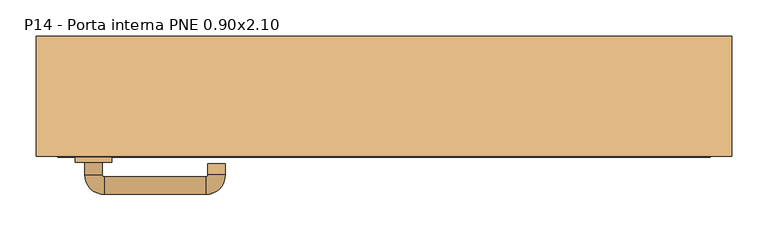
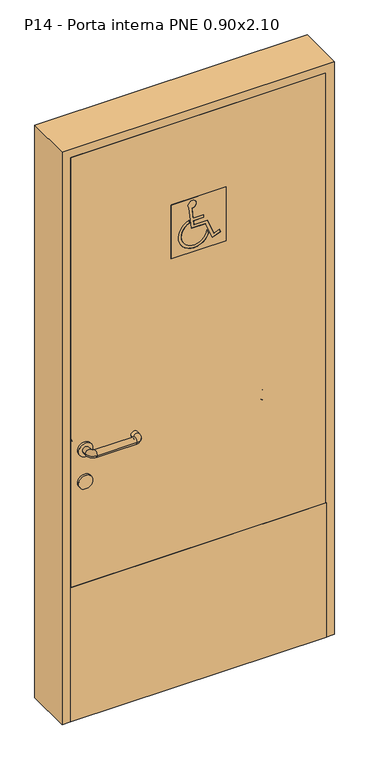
"""IFC4 building model written with IfcOpenShell, lengths in millimetres: door geometry, porta pne medida interna : P14 - Porta interna PNE 0.90x2.10."""

from ifc_helpers import new_model, si_unit, point, frame, frame_2d, origin, origin_with_axes, place, context, project, spatial, polyline, circle_curve, ellipse_curve, trimmed, segment, composite_curve, outline, extrude, source, transform, mapped, element, save
from ifc_brep_helpers import plane_surface, cylinder_surface, revolved_surface, advanced_brep


def p14_porta_interna_pne_0_90x2_10_b06f21c3(model_context):
    return source(origin(), model_context, "Body", "SolidModel", [
        advanced_brep(
        [(-389.0, -45.0, 1000.0), (-413.0, -45.0, 1000.0), (-389.0, -28.0, 1000.0), (-413.0, -28.0, 1000.0), (-386.0, -1.0, 1000.0), (-386.0, -25.0, 1000.0), (-246.0, -25.0, 1000.0), (-246.0, -1.0, 1000.0), (-219.0, -28.0, 1000.0), (-243.0, -28.0, 1000.0), (-243.0, -43.0, 1000.0), (-219.0, -43.0, 1000.0)],
        [
            (0, 1, circle_curve(frame((-401.0, -45.0, 1000.0), z_axis=(0.0, -1.0, 0.0), x_axis=(-1.0, 0.0, 0.0)), 12.0)),
            (1, 0, circle_curve(frame((-401.0, -45.0, 1000.0), z_axis=(0.0, -1.0, 0.0), x_axis=(-1.0, 0.0, 0.0)), 12.0)),
            (0, 2),
            (2, 3, circle_curve(frame((-401.0, -28.0, 1000.0), z_axis=(0.0, -1.0, 0.0), x_axis=(-1.0, 0.0, 0.0)), 12.0)),
            (3, 1),
            (3, 2, circle_curve(frame((-401.0, -28.0, 1000.0), z_axis=(0.0, -1.0, 0.0), x_axis=(-1.0, 0.0, 0.0)), 12.0)),
            (4, 3, circle_curve(frame((-386.0, -28.0, 1000.0), z_axis=(0.0, 0.0, 1.0), x_axis=(-1.0, 0.0, 0.0)), 27.0)),
            (2, 5, circle_curve(frame((-386.0, -28.0, 1000.0), z_axis=(0.0, 0.0, -1.0), x_axis=(-1.0, 0.0, 0.0)), 3.0)),
            (5, 4, circle_curve(frame((-386.0, -13.0, 1000.0), z_axis=(-1.0, 0.0, 0.0), x_axis=(0.0, 1.0, 0.0)), 12.0)),
            (4, 5, circle_curve(frame((-386.0, -13.0, 1000.0), z_axis=(-1.0, 0.0, 0.0), x_axis=(0.0, 1.0, 0.0)), 12.0)),
            (5, 6),
            (6, 7, circle_curve(frame((-246.0, -13.0, 1000.0), z_axis=(-1.0, 0.0, 0.0), x_axis=(0.0, 1.0, 0.0)), 12.0)),
            (7, 4),
            (7, 6, circle_curve(frame((-246.0, -13.0, 1000.0), z_axis=(-1.0, 0.0, 0.0), x_axis=(0.0, 1.0, 0.0)), 12.0)),
            (8, 7, circle_curve(frame((-246.0, -28.0, 1000.0), z_axis=(0.0, 0.0, 1.0), x_axis=(0.0, 1.0, 0.0)), 27.0)),
            (6, 9, circle_curve(frame((-246.0, -28.0, 1000.0), z_axis=(0.0, 0.0, -1.0), x_axis=(0.0, 1.0, 0.0)), 3.0)),
            (9, 8, circle_curve(frame((-231.0, -28.0, 1000.0), z_axis=(0.0, 1.0, 0.0), x_axis=(1.0, 0.0, 0.0)), 12.0)),
            (8, 9, circle_curve(frame((-231.0, -28.0, 1000.0), z_axis=(0.0, 1.0, 0.0), x_axis=(1.0, 0.0, 0.0)), 12.0)),
            (10, 11, circle_curve(frame((-231.0, -43.0, 1000.0), z_axis=(0.0, -1.0, 0.0), x_axis=(1.0, 0.0, 0.0)), 12.0)),
            (11, 10, circle_curve(frame((-231.0, -43.0, 1000.0), z_axis=(0.0, -1.0, 0.0), x_axis=(1.0, 0.0, 0.0)), 12.0)),
            (9, 10),
            (11, 8),
        ],
        [
            plane_surface(frame((-1243.0, -45.0, 1830.0), z_axis=(0.0, -1.0, 0.0), x_axis=(0.0, 0.0, 1.0))),
            cylinder_surface(frame((-401.0, -45.0, 1000.0), z_axis=(0.0, -1.0, 0.0), x_axis=(-1.0, 0.0, 0.0)), 12.0),
            revolved_surface(trimmed(ellipse_curve(frame((-401.0, -28.0, 1000.0), z_axis=(0.0, -1.0, 0.0), x_axis=(-1.0, 0.0, 0.0)), 12.0, 12.0), [point((-389.0, -28.0, 1000.0))], [point((-413.0, -28.0, 1000.0))], True, "CARTESIAN"), (-386.0, -28.0, 1830.0), (0.0, 0.0, -1.0)),
            revolved_surface(trimmed(ellipse_curve(frame((-401.0, -28.0, 1000.0), z_axis=(0.0, -1.0, 0.0), x_axis=(-1.0, 0.0, 0.0)), 12.0, 12.0), [point((-413.0, -28.0, 1000.0))], [point((-389.0, -28.0, 1000.0))], True, "CARTESIAN"), (-386.0, -28.0, 1830.0), (0.0, 0.0, -1.0)),
            cylinder_surface(frame((-386.0, -13.0, 1000.0), z_axis=(-1.0, 0.0, 0.0), x_axis=(0.0, 1.0, 0.0)), 12.0),
            revolved_surface(trimmed(ellipse_curve(frame((-246.0, -13.0, 1000.0), z_axis=(-1.0, 0.0, 0.0), x_axis=(0.0, 1.0, 0.0)), 12.0, 12.0), [point((-246.0, -25.0, 1000.0))], [point((-246.0, -1.0, 1000.0))], True, "CARTESIAN"), (-246.0, -28.0, 1830.0), (0.0, 0.0, -1.0)),
            revolved_surface(trimmed(ellipse_curve(frame((-246.0, -13.0, 1000.0), z_axis=(-1.0, 0.0, 0.0), x_axis=(0.0, 1.0, 0.0)), 12.0, 12.0), [point((-246.0, -1.0, 1000.0))], [point((-246.0, -25.0, 1000.0))], True, "CARTESIAN"), (-246.0, -28.0, 1830.0), (0.0, 0.0, -1.0)),
            plane_surface(frame((-1073.0, -43.0, 1830.0), z_axis=(0.0, -1.0, 0.0), x_axis=(0.0, 0.0, -1.0))),
            cylinder_surface(frame((-231.0, -28.0, 1000.0), z_axis=(0.0, 1.0, 0.0), x_axis=(1.0, 0.0, 0.0)), 12.0),
        ],
        [
            (0, [[1, 2]]),
            (1, [[-1, 3, 4, 5]]),
            (1, [[-2, -5, 6, -3]]),
            (2, [[7, -4, 8, 9]]),
            (3, [[-8, -6, -7, 10]]),
            (4, [[-9, 11, 12, 13]]),
            (4, [[-10, -13, 14, -11]]),
            (5, [[15, -12, 16, 17]]),
            (6, [[-16, -14, -15, 18]]),
            (7, [[19, 20]]),
            (8, [[-17, 21, -20, 22]]),
            (8, [[-18, -22, -19, -21]]),
        ],
    ),
        extrude(outline(composite_curve([segment(trimmed(circle_curve(frame_2d((880.0, -401.0)), 25.0), [point((880.0, -426.0))], [point((880.0, -376.0))], False, "CARTESIAN"), True, "CONTINUOUS"), segment(trimmed(circle_curve(frame_2d((880.0, -401.0)), 25.0), [point((880.0, -376.0))], [point((880.0, -426.0))], False, "CARTESIAN"), True, "CONTINUOUS")], self_intersect=False)), frame((0.0, -53.0, 0.0), z_axis=(0.0, 1.0, 0.0), x_axis=(0.0, 0.0, 1.0)), (0.0, 0.0, 1.0), 8.0),
        extrude(outline(composite_curve([segment(trimmed(circle_curve(frame_2d((1000.0, -401.0)), 25.0), [point((1000.0, -426.0))], [point((1000.0, -376.0))], False, "CARTESIAN"), True, "CONTINUOUS"), segment(trimmed(circle_curve(frame_2d((1000.0, -401.0)), 25.0), [point((1000.0, -376.0))], [point((1000.0, -426.0))], False, "CARTESIAN"), True, "CONTINUOUS")], self_intersect=False)), frame((0.0, -53.0, 0.0), z_axis=(0.0, 1.0, 0.0), x_axis=(0.0, 0.0, 1.0)), (0.0, 0.0, 1.0), 8.0),
        advanced_brep(
        [(-413.0, -91.0, 1000.0), (-389.0, -91.0, 1000.0), (-413.0, -108.0, 1000.0), (-389.0, -108.0, 1000.0), (-386.0, -111.0, 1000.0), (-386.0, -135.0, 1000.0), (-246.0, -135.0, 1000.0), (-246.0, -111.0, 1000.0), (-243.0, -108.0, 1000.0), (-219.0, -108.0, 1000.0), (-219.0, -93.0, 1000.0), (-243.0, -93.0, 1000.0)],
        [
            (0, 1, circle_curve(frame((-401.0, -91.0, 1000.0), z_axis=(0.0, 1.0, 0.0), x_axis=(1.0, 0.0, 0.0)), 12.0)),
            (1, 0, circle_curve(frame((-401.0, -91.0, 1000.0), z_axis=(0.0, 1.0, 0.0), x_axis=(1.0, 0.0, 0.0)), 12.0)),
            (0, 2),
            (2, 3, circle_curve(frame((-401.0, -108.0, 1000.0), z_axis=(0.0, 1.0, 0.0), x_axis=(1.0, 0.0, 0.0)), 12.0)),
            (3, 1),
            (3, 2, circle_curve(frame((-401.0, -108.0, 1000.0), z_axis=(0.0, 1.0, 0.0), x_axis=(1.0, 0.0, 0.0)), 12.0)),
            (4, 3, circle_curve(frame((-386.0, -108.0, 1000.0), z_axis=(0.0, 0.0, -1.0), x_axis=(-1.0, 0.0, 0.0)), 3.0)),
            (2, 5, circle_curve(frame((-386.0, -108.0, 1000.0), z_axis=(0.0, 0.0, 1.0), x_axis=(-1.0, 0.0, 0.0)), 27.0)),
            (5, 4, circle_curve(frame((-386.0, -123.0, 1000.0), z_axis=(-1.0, 0.0, 0.0), x_axis=(0.0, 1.0, 0.0)), 12.0)),
            (4, 5, circle_curve(frame((-386.0, -123.0, 1000.0), z_axis=(-1.0, 0.0, 0.0), x_axis=(0.0, 1.0, 0.0)), 12.0)),
            (5, 6),
            (6, 7, circle_curve(frame((-246.0, -123.0, 1000.0), z_axis=(-1.0, 0.0, 0.0), x_axis=(0.0, 1.0, 0.0)), 12.0)),
            (7, 4),
            (7, 6, circle_curve(frame((-246.0, -123.0, 1000.0), z_axis=(-1.0, 0.0, 0.0), x_axis=(0.0, 1.0, 0.0)), 12.0)),
            (8, 7, circle_curve(frame((-246.0, -108.0, 1000.0), z_axis=(0.0, 0.0, -1.0), x_axis=(0.0, -1.0, 0.0)), 3.0)),
            (6, 9, circle_curve(frame((-246.0, -108.0, 1000.0), z_axis=(0.0, 0.0, 1.0), x_axis=(0.0, -1.0, 0.0)), 27.0)),
            (9, 8, circle_curve(frame((-231.0, -108.0, 1000.0), z_axis=(0.0, -1.0, 0.0), x_axis=(-1.0, 0.0, 0.0)), 12.0)),
            (8, 9, circle_curve(frame((-231.0, -108.0, 1000.0), z_axis=(0.0, -1.0, 0.0), x_axis=(-1.0, 0.0, 0.0)), 12.0)),
            (10, 11, circle_curve(frame((-231.0, -93.0, 1000.0), z_axis=(0.0, 1.0, 0.0), x_axis=(-1.0, 0.0, 0.0)), 12.0)),
            (11, 10, circle_curve(frame((-231.0, -93.0, 1000.0), z_axis=(0.0, 1.0, 0.0), x_axis=(-1.0, 0.0, 0.0)), 12.0)),
            (9, 10),
            (11, 8),
        ],
        [
            plane_surface(frame((-1243.0, -91.0, 1830.0), z_axis=(0.0, 1.0, 0.0), x_axis=(0.0, 0.0, -1.0))),
            cylinder_surface(frame((-401.0, -91.0, 1000.0), z_axis=(0.0, 1.0, 0.0), x_axis=(1.0, 0.0, 0.0)), 12.0),
            revolved_surface(trimmed(ellipse_curve(frame((-401.0, -108.0, 1000.0), z_axis=(0.0, 1.0, 0.0), x_axis=(1.0, 0.0, 0.0)), 12.0, 12.0), [point((-413.0, -108.0, 1000.0))], [point((-389.0, -108.0, 1000.0))], True, "CARTESIAN"), (-386.0, -108.0, 1830.0), (0.0, 0.0, 1.0)),
            revolved_surface(trimmed(ellipse_curve(frame((-401.0, -108.0, 1000.0), z_axis=(0.0, 1.0, 0.0), x_axis=(1.0, 0.0, 0.0)), 12.0, 12.0), [point((-389.0, -108.0, 1000.0))], [point((-413.0, -108.0, 1000.0))], True, "CARTESIAN"), (-386.0, -108.0, 1830.0), (0.0, 0.0, 1.0)),
            cylinder_surface(frame((-386.0, -123.0, 1000.0), z_axis=(-1.0, 0.0, 0.0), x_axis=(0.0, 1.0, 0.0)), 12.0),
            revolved_surface(trimmed(ellipse_curve(frame((-246.0, -123.0, 1000.0), z_axis=(-1.0, 0.0, 0.0), x_axis=(0.0, 1.0, 0.0)), 12.0, 12.0), [point((-246.0, -135.0, 1000.0))], [point((-246.0, -111.0, 1000.0))], True, "CARTESIAN"), (-246.0, -108.0, 1830.0), (0.0, 0.0, 1.0)),
            revolved_surface(trimmed(ellipse_curve(frame((-246.0, -123.0, 1000.0), z_axis=(-1.0, 0.0, 0.0), x_axis=(0.0, 1.0, 0.0)), 12.0, 12.0), [point((-246.0, -111.0, 1000.0))], [point((-246.0, -135.0, 1000.0))], True, "CARTESIAN"), (-246.0, -108.0, 1830.0), (0.0, 0.0, 1.0)),
            plane_surface(frame((-1073.0, -93.0, 1830.0), z_axis=(0.0, 1.0, 0.0), x_axis=(0.0, 0.0, 1.0))),
            cylinder_surface(frame((-231.0, -108.0, 1000.0), z_axis=(0.0, -1.0, 0.0), x_axis=(-1.0, 0.0, 0.0)), 12.0),
        ],
        [
            (0, [[1, 2]]),
            (1, [[-1, 3, 4, 5]]),
            (1, [[-2, -5, 6, -3]]),
            (2, [[7, -4, 8, 9]]),
            (3, [[-8, -6, -7, 10]]),
            (4, [[-9, 11, 12, 13]]),
            (4, [[-10, -13, 14, -11]]),
            (5, [[15, -12, 16, 17]]),
            (6, [[-16, -14, -15, 18]]),
            (7, [[19, 20]]),
            (8, [[-17, 21, -20, 22]]),
            (8, [[-18, -22, -19, -21]]),
        ],
    ),
        extrude(outline(composite_curve([segment(trimmed(circle_curve(frame_2d((880.0, -401.0)), 25.0), [point((880.0, -426.0))], [point((880.0, -376.0))], False, "CARTESIAN"), True, "CONTINUOUS"), segment(trimmed(circle_curve(frame_2d((880.0, -401.0)), 25.0), [point((880.0, -376.0))], [point((880.0, -426.0))], False, "CARTESIAN"), True, "CONTINUOUS")], self_intersect=False)), frame((0.0, -91.0, 0.0), z_axis=(0.0, 1.0, 0.0), x_axis=(0.0, 0.0, 1.0)), (0.0, 0.0, 1.0), 8.0),
        extrude(outline(composite_curve([segment(trimmed(circle_curve(frame_2d((1000.0, -401.0)), 25.0), [point((1000.0, -426.0))], [point((1000.0, -376.0))], False, "CARTESIAN"), True, "CONTINUOUS"), segment(trimmed(circle_curve(frame_2d((1000.0, -401.0)), 25.0), [point((1000.0, -376.0))], [point((1000.0, -426.0))], False, "CARTESIAN"), True, "CONTINUOUS")], self_intersect=False)), frame((0.0, -91.0, 0.0), z_axis=(0.0, 1.0, 0.0), x_axis=(0.0, 0.0, 1.0)), (0.0, 0.0, 1.0), 8.0),
        extrude(outline(composite_curve([segment(trimmed(circle_curve(frame_2d((914.4, -121.4077617)), 25.4), [point((914.4, -96.0077617))], [point((914.4, -146.8077617))], False, "CARTESIAN"), True, "CONTINUOUS"), segment(trimmed(circle_curve(frame_2d((914.4, -121.4077617)), 25.4), [point((914.4, -146.8077617))], [point((914.4, -96.0077617))], False, "CARTESIAN"), True, "CONTINUOUS")], self_intersect=False)), frame((0.0, -53.0, 0.0), z_axis=(0.0, 1.0, 0.0), x_axis=(0.0, 0.0, 1.0)), (0.0, 0.0, 1.0), 19.05),
        extrude(outline(composite_curve([segment(trimmed(circle_curve(frame_2d((914.4, 278.5922383)), 25.4), [point((914.4, 303.9922383))], [point((914.4, 253.1922383))], False, "CARTESIAN"), True, "CONTINUOUS"), segment(trimmed(circle_curve(frame_2d((914.4, 278.5922383)), 25.4), [point((914.4, 253.1922383))], [point((914.4, 303.9922383))], False, "CARTESIAN"), True, "CONTINUOUS")], self_intersect=False)), frame((0.0, -53.0, 0.0), z_axis=(0.0, 1.0, 0.0), x_axis=(0.0, 0.0, 1.0)), (0.0, 0.0, 1.0), 19.05),
        advanced_brep(
        [(262.7172383, -33.95, 914.4), (294.4672383, -33.95, 914.4), (294.4672383, -14.9, 914.4), (262.7172383, -14.9, 914.4), (253.1922383, 26.375, 914.4), (253.1922383, -5.375, 914.4), (-96.0077617, 26.375, 914.4), (-96.0077617, -5.375, 914.4), (-137.2827617, -14.9, 914.4), (-105.5327617, -14.9, 914.4), (-105.5327617, -33.95, 914.4), (-137.2827617, -33.95, 914.4)],
        [
            (0, 1, circle_curve(frame((278.5922383, -33.95, 914.4), z_axis=(0.0, -1.0, 0.0), x_axis=(1.0, 0.0, 0.0)), 15.875)),
            (1, 0, circle_curve(frame((278.5922383, -33.95, 914.4), z_axis=(0.0, -1.0, 0.0), x_axis=(1.0, 0.0, 0.0)), 15.875)),
            (1, 2),
            (2, 3, circle_curve(frame((278.5922383, -14.9, 914.4), z_axis=(0.0, -1.0, 0.0), x_axis=(1.0, 0.0, 0.0)), 15.875)),
            (3, 0),
            (3, 2, circle_curve(frame((278.5922383, -14.9, 914.4), z_axis=(0.0, -1.0, 0.0), x_axis=(1.0, 0.0, 0.0)), 15.875)),
            (4, 5, circle_curve(frame((253.1922383, 10.5, 914.4), z_axis=(1.0, 0.0, 0.0), x_axis=(0.0, 1.0, 0.0)), 15.875)),
            (5, 3, circle_curve(frame((253.1922383, -14.9, 914.4), z_axis=(0.0, 0.0, -1.0), x_axis=(1.0, 0.0, 0.0)), 9.525)),
            (2, 4, circle_curve(frame((253.1922383, -14.9, 914.4), z_axis=(0.0, 0.0, 1.0), x_axis=(1.0, 0.0, 0.0)), 41.275)),
            (5, 4, circle_curve(frame((253.1922383, 10.5, 914.4), z_axis=(1.0, 0.0, 0.0), x_axis=(0.0, 1.0, 0.0)), 15.875)),
            (4, 6),
            (6, 7, circle_curve(frame((-96.0077617, 10.5, 914.4), z_axis=(1.0, 0.0, 0.0), x_axis=(0.0, 1.0, 0.0)), 15.875)),
            (7, 5),
            (7, 6, circle_curve(frame((-96.0077617, 10.5, 914.4), z_axis=(1.0, 0.0, 0.0), x_axis=(0.0, 1.0, 0.0)), 15.875)),
            (8, 9, circle_curve(frame((-121.4077617, -14.9, 914.4), z_axis=(0.0, 1.0, 0.0), x_axis=(-1.0, 0.0, 0.0)), 15.875)),
            (9, 7, circle_curve(frame((-96.0077617, -14.9, 914.4), z_axis=(0.0, 0.0, -1.0), x_axis=(0.0, 1.0, 0.0)), 9.525)),
            (6, 8, circle_curve(frame((-96.0077617, -14.9, 914.4), z_axis=(0.0, 0.0, 1.0), x_axis=(0.0, 1.0, 0.0)), 41.275)),
            (9, 8, circle_curve(frame((-121.4077617, -14.9, 914.4), z_axis=(0.0, 1.0, 0.0), x_axis=(-1.0, 0.0, 0.0)), 15.875)),
            (10, 11, circle_curve(frame((-121.4077617, -33.95, 914.4), z_axis=(0.0, -1.0, 0.0), x_axis=(-1.0, 0.0, 0.0)), 15.875)),
            (11, 10, circle_curve(frame((-121.4077617, -33.95, 914.4), z_axis=(0.0, -1.0, 0.0), x_axis=(-1.0, 0.0, 0.0)), 15.875)),
            (8, 11),
            (10, 9),
        ],
        [
            plane_surface(frame((1208.8672383, -33.95, 0.0), z_axis=(0.0, -1.0, 0.0), x_axis=(0.0, 0.0, 1.0))),
            cylinder_surface(frame((278.5922383, -33.95, 914.4), z_axis=(0.0, -1.0, 0.0), x_axis=(1.0, 0.0, 0.0)), 15.875),
            revolved_surface(trimmed(ellipse_curve(frame((278.5922383, -14.9, 914.4), z_axis=(0.0, 1.0, 0.0), x_axis=(1.0, 0.0, 0.0)), 15.875, 15.875), [point((262.7172383, -14.9, 914.4))], [point((294.4672383, -14.9, 914.4))], True, "CARTESIAN"), (253.1922383, -14.9, 0.0), (0.0, 0.0, -1.0)),
            revolved_surface(trimmed(ellipse_curve(frame((278.5922383, -14.9, 914.4), z_axis=(0.0, 1.0, 0.0), x_axis=(1.0, 0.0, 0.0)), 15.875, 15.875), [point((294.4672383, -14.9, 914.4))], [point((262.7172383, -14.9, 914.4))], True, "CARTESIAN"), (253.1922383, -14.9, 0.0), (0.0, 0.0, -1.0)),
            cylinder_surface(frame((253.1922383, 10.5, 914.4), z_axis=(1.0, 0.0, 0.0), x_axis=(0.0, 1.0, 0.0)), 15.875),
            revolved_surface(trimmed(ellipse_curve(frame((-96.0077617, 10.5, 914.4), z_axis=(-1.0, 0.0, 0.0), x_axis=(0.0, 1.0, 0.0)), 15.875, 15.875), [point((-96.0077617, -5.375, 914.4))], [point((-96.0077617, 26.375, 914.4))], True, "CARTESIAN"), (-96.0077617, -14.9, 0.0), (0.0, 0.0, -1.0)),
            revolved_surface(trimmed(ellipse_curve(frame((-96.0077617, 10.5, 914.4), z_axis=(-1.0, 0.0, 0.0), x_axis=(0.0, 1.0, 0.0)), 15.875, 15.875), [point((-96.0077617, 26.375, 914.4))], [point((-96.0077617, -5.375, 914.4))], True, "CARTESIAN"), (-96.0077617, -14.9, 0.0), (0.0, 0.0, -1.0)),
            plane_surface(frame((808.8672383, -33.95, 0.0), z_axis=(0.0, -1.0, 0.0), x_axis=(0.0, 0.0, -1.0))),
            cylinder_surface(frame((-121.4077617, -14.9, 914.4), z_axis=(0.0, 1.0, 0.0), x_axis=(-1.0, 0.0, 0.0)), 15.875),
        ],
        [
            (0, [[1, 2]]),
            (1, [[3, 4, 5, -2]]),
            (1, [[-5, 6, -3, -1]]),
            (2, [[7, 8, -4, 9]]),
            (3, [[10, -9, -6, -8]]),
            (4, [[11, 12, 13, -7]]),
            (4, [[-13, 14, -11, -10]]),
            (5, [[15, 16, -12, 17]]),
            (6, [[18, -17, -14, -16]]),
            (7, [[19, 20]]),
            (8, [[21, -19, 22, -15]]),
            (8, [[-22, -20, -21, -18]]),
        ],
    ),
        extrude(outline(polyline([(0.0, -480.0), (0.0, -450.0), (2100.0, -450.0), (2100.0, 450.0), (0.0, 450.0), (0.0, 480.0), (2130.0, 480.0), (2130.0, -480.0), (0.0, -480.0)])), frame((0.0, -83.0, 0.0), z_axis=(0.0, 1.0, 0.0), x_axis=(0.0, 0.0, 1.0)), (0.0, 0.0, 1.0), 166.0),
        extrude(outline(polyline([(450.0, -83.0), (-450.0, -83.0), (-450.0, -53.0), (450.0, -53.0), (450.0, -83.0)])), origin_with_axes(), (0.0, 0.0, 1.0), 2100.0),
        extrude(outline(polyline([(1600.0, 96.9185761), (1800.0, 96.9185761), (1800.0, -96.9185761), (1600.0, -96.9185761), (1600.0, 96.9185761)]), holes=[composite_curve([segment(polyline([(1628.7363805, 49.6828378), (1688.4855397, 24.8691264), (1688.4855397, -25.1331322), (1767.0130149, -32.5603494)]), True, "CONTINUOUS"), segment(trimmed(circle_curve(frame_2d((1776.1591244, -21.7622493)), 14.1509818), [point((1767.0130149, -32.5603494))], [point((1762.0109204, -22.0426173))], True, "CARTESIAN"), True, "CONTINUOUS"), segment(polyline([(1762.0109204, -22.0426173), (1723.4855397, -18.3988434), (1723.4855397, 18.5281564), (1713.4855397, 18.5281564), (1713.4855397, -17.4530321), (1698.4855397, -16.0343152), (1698.4855397, 31.5442224), (1641.8070125, 55.0827063), (1649.477776, 73.5532068), (1640.2425257, 77.3885885), (1628.7363805, 49.6828378)]), True, "CONTINUOUS")], self_intersect=False), composite_curve([segment(polyline([(1664.5407291, 29.3993219), (1648.7950906, 35.9384554)]), True, "CONTINUOUS"), segment(trimmed(circle_curve(frame_2d((1668.4542089, -15.4620486)), 55.0317431), [point((1648.7950906, 35.9384554))], [point((1720.5528546, -33.1884092))], True, "CARTESIAN"), True, "CONTINUOUS"), segment(polyline([(1720.5528546, -33.1884092), (1710.2539579, -32.214328)]), True, "CONTINUOUS"), segment(trimmed(circle_curve(frame_2d((1668.4542089, -15.4620486)), 45.0317431), [point((1710.2539579, -32.214328))], [point((1664.5407291, 29.3993219))], False, "CARTESIAN"), True, "CONTINUOUS")], self_intersect=False)]), frame((0.0, -84.0, 0.0), z_axis=(0.0, 1.0, 0.0), x_axis=(0.0, 0.0, 1.0)), (0.0, 0.0, 1.0), 1.0),
        extrude(outline(polyline([(450.0, -51.9521044), (450.0, -53.0), (-450.0, -53.0), (-450.0, -51.9521044), (450.0, -51.9521044)])), origin_with_axes(), (0.0, 0.0, 1.0), 500.0),
        extrude(outline(polyline([(450.0, -83.0), (450.0, -84.0478956), (-450.0, -84.0478956), (-450.0, -83.0), (450.0, -83.0)])), origin_with_axes(), (0.0, 0.0, 1.0), 500.0),
    ])


if __name__ == "__main__":
    model = new_model("IFC4")
    model_context = context("Model", 3, world=origin())
    ifc_project = project(units=[si_unit("LENGTHUNIT", "METRE", prefix="MILLI")], contexts=[model_context])
    site = spatial("IfcSite", under=ifc_project)
    building = spatial("IfcBuilding", under=site)
    placement = place(None, origin())
    p14_porta_interna_pne_0_90x2_10_shape = p14_porta_interna_pne_0_90x2_10_b06f21c3(model_context)
    element("IfcDoor", 1, ObjectType="porta pne medida interna : P14 - Porta interna PNE 0.90x2.10", at=placement, inside=building, context=model_context, shape_type="MappedRepresentation", body=[
        mapped(p14_porta_interna_pne_0_90x2_10_shape, transform((0.0, 0.0, 0.0), x_axis=(1.0, 0.0, 0.0), y_axis=(0.0, 1.0, 0.0), z_axis=(0.0, 0.0, 1.0))),
    ])
    save(model, "model.ifc")
